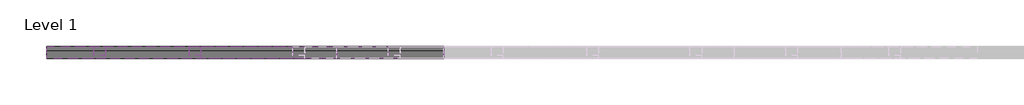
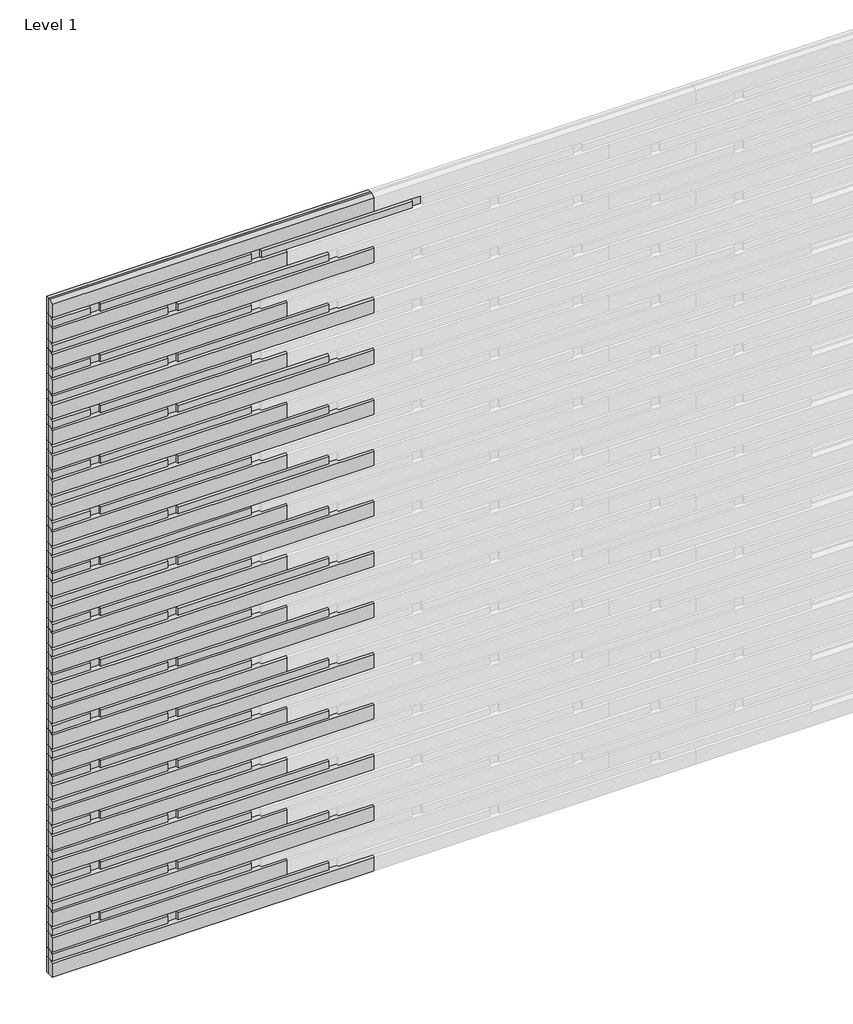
# One storey, part 1 of 4: 108 proxies.
"""IFC4 building model written with IfcOpenShell, lengths in millimetres."""

from ifc_helpers import new_model, si_unit, origin, place, context, project, spatial, transform, mapped, element, save
from components import specialty_equipment_50deff0f, specialty_equipment_1c03680a, specialty_equipment_1ede2179, specialty_equipment_b6bac791, specialty_equipment_79064f35, specialty_equipment_8ec0052d

model = new_model("IFC4")

# Units and contexts
model_context = context("Model", 3, world=origin())
ifc_project = project(units=[si_unit("LENGTHUNIT", "METRE", prefix="MILLI")], contexts=[model_context])

# Site, building, storey
site = spatial("IfcSite", under=ifc_project)
building = spatial("IfcBuilding", under=site)
storey = spatial("IfcBuildingStorey", under=building, Name="Level 1", Elevation=0.0)

# Proxies
placement = place(None, origin())
specialty_equipment_shape = specialty_equipment_50deff0f(model_context)
element("IfcBuildingElementProxy", 1, Name="Spinneybeck_ARO Plank 7 : A - 5’-6”  x 3 1/2” x 1 1/4”", ObjectType="Spinneybeck_ARO Plank 7 : A - 5’-6”  x 3 1/2” x 1 1/4”", at=placement, inside=storey, context=model_context, shape_type="MappedRepresentation", body=[
    mapped(specialty_equipment_shape, transform((-5209.7177571, 2593.3070483, 3755.55), x_axis=(1.0, 0.0, 0.0), y_axis=(0.0, 0.0, 1.0), z_axis=(0.0, -1.0, 0.0))),
])
element("IfcBuildingElementProxy", 2, Name="Spinneybeck_ARO Plank 7 : A - 5’-6”  x 3 1/2” x 1 1/4”", ObjectType="Spinneybeck_ARO Plank 7 : A - 5’-6”  x 3 1/2” x 1 1/4”", at=placement, inside=storey, context=model_context, shape_type="MappedRepresentation", body=[
    mapped(specialty_equipment_shape, transform((-5209.7177571, 2593.3070483, 3476.15), x_axis=(1.0, 0.0, 0.0), y_axis=(0.0, 0.0, 1.0), z_axis=(0.0, -1.0, 0.0))),
])
element("IfcBuildingElementProxy", 3, Name="Spinneybeck_ARO Plank 7 : A - 5’-6”  x 3 1/2” x 1 1/4”", ObjectType="Spinneybeck_ARO Plank 7 : A - 5’-6”  x 3 1/2” x 1 1/4”", at=placement, inside=storey, context=model_context, shape_type="MappedRepresentation", body=[
    mapped(specialty_equipment_shape, transform((-5209.7177571, 2593.3070483, 3196.75), x_axis=(1.0, 0.0, 0.0), y_axis=(0.0, 0.0, 1.0), z_axis=(0.0, -1.0, 0.0))),
])
element("IfcBuildingElementProxy", 4, Name="Spinneybeck_ARO Plank 7 : A - 5’-6”  x 3 1/2” x 1 1/4”", ObjectType="Spinneybeck_ARO Plank 7 : A - 5’-6”  x 3 1/2” x 1 1/4”", at=placement, inside=storey, context=model_context, shape_type="MappedRepresentation", body=[
    mapped(specialty_equipment_shape, transform((-5209.7177571, 2593.3070483, 2917.35), x_axis=(1.0, 0.0, 0.0), y_axis=(0.0, 0.0, 1.0), z_axis=(0.0, -1.0, 0.0))),
])
element("IfcBuildingElementProxy", 5, Name="Spinneybeck_ARO Plank 7 : A - 5’-6”  x 3 1/2” x 1 1/4”", ObjectType="Spinneybeck_ARO Plank 7 : A - 5’-6”  x 3 1/2” x 1 1/4”", at=placement, inside=storey, context=model_context, shape_type="MappedRepresentation", body=[
    mapped(specialty_equipment_shape, transform((-5209.7177571, 2593.3070483, 2637.95), x_axis=(1.0, 0.0, 0.0), y_axis=(0.0, 0.0, 1.0), z_axis=(0.0, -1.0, 0.0))),
])
element("IfcBuildingElementProxy", 6, Name="Spinneybeck_ARO Plank 7 : A - 5’-6”  x 3 1/2” x 1 1/4”", ObjectType="Spinneybeck_ARO Plank 7 : A - 5’-6”  x 3 1/2” x 1 1/4”", at=placement, inside=storey, context=model_context, shape_type="MappedRepresentation", body=[
    mapped(specialty_equipment_shape, transform((-5209.7177571, 2593.3070483, 2358.55), x_axis=(1.0, 0.0, 0.0), y_axis=(0.0, 0.0, 1.0), z_axis=(0.0, -1.0, 0.0))),
])
element("IfcBuildingElementProxy", 7, Name="Spinneybeck_ARO Plank 7 : A - 5’-6”  x 3 1/2” x 1 1/4”", ObjectType="Spinneybeck_ARO Plank 7 : A - 5’-6”  x 3 1/2” x 1 1/4”", at=placement, inside=storey, context=model_context, shape_type="MappedRepresentation", body=[
    mapped(specialty_equipment_shape, transform((-5209.7177571, 2593.3070483, 2079.15), x_axis=(1.0, 0.0, 0.0), y_axis=(0.0, 0.0, 1.0), z_axis=(0.0, -1.0, 0.0))),
])
element("IfcBuildingElementProxy", 8, Name="Spinneybeck_ARO Plank 7 : A - 5’-6”  x 3 1/2” x 1 1/4”", ObjectType="Spinneybeck_ARO Plank 7 : A - 5’-6”  x 3 1/2” x 1 1/4”", at=placement, inside=storey, context=model_context, shape_type="MappedRepresentation", body=[
    mapped(specialty_equipment_shape, transform((-5209.7177571, 2593.3070483, 1799.75), x_axis=(1.0, 0.0, 0.0), y_axis=(0.0, 0.0, 1.0), z_axis=(0.0, -1.0, 0.0))),
])
element("IfcBuildingElementProxy", 9, Name="Spinneybeck_ARO Plank 7 : A - 5’-6”  x 3 1/2” x 1 1/4”", ObjectType="Spinneybeck_ARO Plank 7 : A - 5’-6”  x 3 1/2” x 1 1/4”", at=placement, inside=storey, context=model_context, shape_type="MappedRepresentation", body=[
    mapped(specialty_equipment_shape, transform((-5209.7177571, 2593.3070483, 1520.35), x_axis=(1.0, 0.0, 0.0), y_axis=(0.0, 0.0, 1.0), z_axis=(0.0, -1.0, 0.0))),
])
element("IfcBuildingElementProxy", 10, Name="Spinneybeck_ARO Plank 7 : A - 5’-6”  x 3 1/2” x 1 1/4”", ObjectType="Spinneybeck_ARO Plank 7 : A - 5’-6”  x 3 1/2” x 1 1/4”", at=placement, inside=storey, context=model_context, shape_type="MappedRepresentation", body=[
    mapped(specialty_equipment_shape, transform((-5209.7177571, 2593.3070483, 1240.95), x_axis=(1.0, 0.0, 0.0), y_axis=(0.0, 0.0, 1.0), z_axis=(0.0, -1.0, 0.0))),
])
element("IfcBuildingElementProxy", 11, Name="Spinneybeck_ARO Plank 7 : A - 5’-6”  x 3 1/2” x 1 1/4”", ObjectType="Spinneybeck_ARO Plank 7 : A - 5’-6”  x 3 1/2” x 1 1/4”", at=placement, inside=storey, context=model_context, shape_type="MappedRepresentation", body=[
    mapped(specialty_equipment_shape, transform((-5209.7177571, 2593.3070483, 961.55), x_axis=(1.0, 0.0, 0.0), y_axis=(0.0, 0.0, 1.0), z_axis=(0.0, -1.0, 0.0))),
])
element("IfcBuildingElementProxy", 12, Name="Spinneybeck_ARO Plank 7 : A - 5’-6”  x 3 1/2” x 1 1/4”", ObjectType="Spinneybeck_ARO Plank 7 : A - 5’-6”  x 3 1/2” x 1 1/4”", at=placement, inside=storey, context=model_context, shape_type="MappedRepresentation", body=[
    mapped(specialty_equipment_shape, transform((-5209.7177571, 2593.3070483, 682.15), x_axis=(1.0, 0.0, 0.0), y_axis=(0.0, 0.0, 1.0), z_axis=(0.0, -1.0, 0.0))),
])
element("IfcBuildingElementProxy", 13, Name="Spinneybeck_ARO Plank 7 : A - 5’-6”  x 3 1/2” x 1 1/4”", ObjectType="Spinneybeck_ARO Plank 7 : A - 5’-6”  x 3 1/2” x 1 1/4”", at=placement, inside=storey, context=model_context, shape_type="MappedRepresentation", body=[
    mapped(specialty_equipment_shape, transform((-5209.7177571, 2593.3070483, 402.75), x_axis=(1.0, 0.0, 0.0), y_axis=(0.0, 0.0, 1.0), z_axis=(0.0, -1.0, 0.0))),
])
element("IfcBuildingElementProxy", 14, Name="Spinneybeck_ARO Plank 7 : A - 5’-6”  x 3 1/2” x 1 1/4”", ObjectType="Spinneybeck_ARO Plank 7 : A - 5’-6”  x 3 1/2” x 1 1/4”", at=placement, inside=storey, context=model_context, shape_type="MappedRepresentation", body=[
    mapped(specialty_equipment_shape, transform((-5209.7177571, 2593.3070483, 123.35), x_axis=(1.0, 0.0, 0.0), y_axis=(0.0, 0.0, 1.0), z_axis=(0.0, -1.0, 0.0))),
])
specialty_equipment_2_shape = specialty_equipment_1c03680a(model_context)
element("IfcBuildingElementProxy", 15, Name="Spinneybeck_ARO Plank 7 : B - 2’-7” x 2” x 1 1/4”", ObjectType="Spinneybeck_ARO Plank 7 : B - 2’-7” x 2” x 1 1/4”", at=placement, inside=storey, context=model_context, shape_type="MappedRepresentation", body=[
    mapped(specialty_equipment_2_shape, transform((-5404.0591593, 2593.3070483, 3685.7), x_axis=(1.0, 0.0, 0.0), y_axis=(0.0, 0.0, 1.0), z_axis=(0.0, -1.0, 0.0))),
])
element("IfcBuildingElementProxy", 16, Name="Spinneybeck_ARO Plank 7 : B - 2’-7” x 2” x 1 1/4”", ObjectType="Spinneybeck_ARO Plank 7 : B - 2’-7” x 2” x 1 1/4”", at=placement, inside=storey, context=model_context, shape_type="MappedRepresentation", body=[
    mapped(specialty_equipment_2_shape, transform((-4565.8591593, 2593.3070483, 3685.7), x_axis=(1.0, 0.0, 0.0), y_axis=(0.0, 0.0, 1.0), z_axis=(0.0, -1.0, 0.0))),
])
element("IfcBuildingElementProxy", 17, Name="Spinneybeck_ARO Plank 7 : B - 2’-7” x 2” x 1 1/4”", ObjectType="Spinneybeck_ARO Plank 7 : B - 2’-7” x 2” x 1 1/4”", at=placement, inside=storey, context=model_context, shape_type="MappedRepresentation", body=[
    mapped(specialty_equipment_2_shape, transform((-5001.0252102, 2593.3070483, 3546.0), x_axis=(1.0, 0.0, 0.0), y_axis=(0.0, 0.0, 1.0), z_axis=(0.0, -1.0, 0.0))),
])
element("IfcBuildingElementProxy", 18, Name="Spinneybeck_ARO Plank 7 : B - 2’-7” x 2” x 1 1/4”", ObjectType="Spinneybeck_ARO Plank 7 : B - 2’-7” x 2” x 1 1/4”", at=placement, inside=storey, context=model_context, shape_type="MappedRepresentation", body=[
    mapped(specialty_equipment_2_shape, transform((-5404.0591593, 2593.3070483, 3406.3), x_axis=(1.0, 0.0, 0.0), y_axis=(0.0, 0.0, 1.0), z_axis=(0.0, -1.0, 0.0))),
])
element("IfcBuildingElementProxy", 19, Name="Spinneybeck_ARO Plank 7 : B - 2’-7” x 2” x 1 1/4”", ObjectType="Spinneybeck_ARO Plank 7 : B - 2’-7” x 2” x 1 1/4”", at=placement, inside=storey, context=model_context, shape_type="MappedRepresentation", body=[
    mapped(specialty_equipment_2_shape, transform((-5001.0252102, 2593.3070483, 3266.6), x_axis=(1.0, 0.0, 0.0), y_axis=(0.0, 0.0, 1.0), z_axis=(0.0, -1.0, 0.0))),
])
element("IfcBuildingElementProxy", 20, Name="Spinneybeck_ARO Plank 7 : B - 2’-7” x 2” x 1 1/4”", ObjectType="Spinneybeck_ARO Plank 7 : B - 2’-7” x 2” x 1 1/4”", at=placement, inside=storey, context=model_context, shape_type="MappedRepresentation", body=[
    mapped(specialty_equipment_2_shape, transform((-5404.0591593, 2593.3070483, 3126.9), x_axis=(1.0, 0.0, 0.0), y_axis=(0.0, 0.0, 1.0), z_axis=(0.0, -1.0, 0.0))),
])
element("IfcBuildingElementProxy", 21, Name="Spinneybeck_ARO Plank 7 : B - 2’-7” x 2” x 1 1/4”", ObjectType="Spinneybeck_ARO Plank 7 : B - 2’-7” x 2” x 1 1/4”", at=placement, inside=storey, context=model_context, shape_type="MappedRepresentation", body=[
    mapped(specialty_equipment_2_shape, transform((-5001.0252102, 2593.3070483, 2987.2), x_axis=(1.0, 0.0, 0.0), y_axis=(0.0, 0.0, 1.0), z_axis=(0.0, -1.0, 0.0))),
])
element("IfcBuildingElementProxy", 22, Name="Spinneybeck_ARO Plank 7 : B - 2’-7” x 2” x 1 1/4”", ObjectType="Spinneybeck_ARO Plank 7 : B - 2’-7” x 2” x 1 1/4”", at=placement, inside=storey, context=model_context, shape_type="MappedRepresentation", body=[
    mapped(specialty_equipment_2_shape, transform((-5404.0591593, 2593.3070483, 2847.5), x_axis=(1.0, 0.0, 0.0), y_axis=(0.0, 0.0, 1.0), z_axis=(0.0, -1.0, 0.0))),
])
element("IfcBuildingElementProxy", 23, Name="Spinneybeck_ARO Plank 7 : B - 2’-7” x 2” x 1 1/4”", ObjectType="Spinneybeck_ARO Plank 7 : B - 2’-7” x 2” x 1 1/4”", at=placement, inside=storey, context=model_context, shape_type="MappedRepresentation", body=[
    mapped(specialty_equipment_2_shape, transform((-5001.0252102, 2593.3070483, 2707.8), x_axis=(1.0, 0.0, 0.0), y_axis=(0.0, 0.0, 1.0), z_axis=(0.0, -1.0, 0.0))),
])
element("IfcBuildingElementProxy", 24, Name="Spinneybeck_ARO Plank 7 : B - 2’-7” x 2” x 1 1/4”", ObjectType="Spinneybeck_ARO Plank 7 : B - 2’-7” x 2” x 1 1/4”", at=placement, inside=storey, context=model_context, shape_type="MappedRepresentation", body=[
    mapped(specialty_equipment_2_shape, transform((-5404.0591593, 2593.3070483, 2568.1), x_axis=(1.0, 0.0, 0.0), y_axis=(0.0, 0.0, 1.0), z_axis=(0.0, -1.0, 0.0))),
])
element("IfcBuildingElementProxy", 25, Name="Spinneybeck_ARO Plank 7 : B - 2’-7” x 2” x 1 1/4”", ObjectType="Spinneybeck_ARO Plank 7 : B - 2’-7” x 2” x 1 1/4”", at=placement, inside=storey, context=model_context, shape_type="MappedRepresentation", body=[
    mapped(specialty_equipment_2_shape, transform((-5001.0252102, 2593.3070483, 2428.4), x_axis=(1.0, 0.0, 0.0), y_axis=(0.0, 0.0, 1.0), z_axis=(0.0, -1.0, 0.0))),
])
element("IfcBuildingElementProxy", 26, Name="Spinneybeck_ARO Plank 7 : B - 2’-7” x 2” x 1 1/4”", ObjectType="Spinneybeck_ARO Plank 7 : B - 2’-7” x 2” x 1 1/4”", at=placement, inside=storey, context=model_context, shape_type="MappedRepresentation", body=[
    mapped(specialty_equipment_2_shape, transform((-5404.0591593, 2593.3070483, 2288.7), x_axis=(1.0, 0.0, 0.0), y_axis=(0.0, 0.0, 1.0), z_axis=(0.0, -1.0, 0.0))),
])
element("IfcBuildingElementProxy", 27, Name="Spinneybeck_ARO Plank 7 : B - 2’-7” x 2” x 1 1/4”", ObjectType="Spinneybeck_ARO Plank 7 : B - 2’-7” x 2” x 1 1/4”", at=placement, inside=storey, context=model_context, shape_type="MappedRepresentation", body=[
    mapped(specialty_equipment_2_shape, transform((-5001.0252102, 2593.3070483, 2149.0), x_axis=(1.0, 0.0, 0.0), y_axis=(0.0, 0.0, 1.0), z_axis=(0.0, -1.0, 0.0))),
])
element("IfcBuildingElementProxy", 28, Name="Spinneybeck_ARO Plank 7 : B - 2’-7” x 2” x 1 1/4”", ObjectType="Spinneybeck_ARO Plank 7 : B - 2’-7” x 2” x 1 1/4”", at=placement, inside=storey, context=model_context, shape_type="MappedRepresentation", body=[
    mapped(specialty_equipment_2_shape, transform((-5404.0591593, 2593.3070483, 2009.3), x_axis=(1.0, 0.0, 0.0), y_axis=(0.0, 0.0, 1.0), z_axis=(0.0, -1.0, 0.0))),
])
element("IfcBuildingElementProxy", 29, Name="Spinneybeck_ARO Plank 7 : B - 2’-7” x 2” x 1 1/4”", ObjectType="Spinneybeck_ARO Plank 7 : B - 2’-7” x 2” x 1 1/4”", at=placement, inside=storey, context=model_context, shape_type="MappedRepresentation", body=[
    mapped(specialty_equipment_2_shape, transform((-5001.0252102, 2593.3070483, 1869.6), x_axis=(1.0, 0.0, 0.0), y_axis=(0.0, 0.0, 1.0), z_axis=(0.0, -1.0, 0.0))),
])
element("IfcBuildingElementProxy", 30, Name="Spinneybeck_ARO Plank 7 : B - 2’-7” x 2” x 1 1/4”", ObjectType="Spinneybeck_ARO Plank 7 : B - 2’-7” x 2” x 1 1/4”", at=placement, inside=storey, context=model_context, shape_type="MappedRepresentation", body=[
    mapped(specialty_equipment_2_shape, transform((-5404.0591593, 2593.3070483, 1729.9), x_axis=(1.0, 0.0, 0.0), y_axis=(0.0, 0.0, 1.0), z_axis=(0.0, -1.0, 0.0))),
])
element("IfcBuildingElementProxy", 31, Name="Spinneybeck_ARO Plank 7 : B - 2’-7” x 2” x 1 1/4”", ObjectType="Spinneybeck_ARO Plank 7 : B - 2’-7” x 2” x 1 1/4”", at=placement, inside=storey, context=model_context, shape_type="MappedRepresentation", body=[
    mapped(specialty_equipment_2_shape, transform((-5001.0252102, 2593.3070483, 1590.2), x_axis=(1.0, 0.0, 0.0), y_axis=(0.0, 0.0, 1.0), z_axis=(0.0, -1.0, 0.0))),
])
element("IfcBuildingElementProxy", 32, Name="Spinneybeck_ARO Plank 7 : B - 2’-7” x 2” x 1 1/4”", ObjectType="Spinneybeck_ARO Plank 7 : B - 2’-7” x 2” x 1 1/4”", at=placement, inside=storey, context=model_context, shape_type="MappedRepresentation", body=[
    mapped(specialty_equipment_2_shape, transform((-5404.0591593, 2593.3070483, 1450.5), x_axis=(1.0, 0.0, 0.0), y_axis=(0.0, 0.0, 1.0), z_axis=(0.0, -1.0, 0.0))),
])
element("IfcBuildingElementProxy", 33, Name="Spinneybeck_ARO Plank 7 : B - 2’-7” x 2” x 1 1/4”", ObjectType="Spinneybeck_ARO Plank 7 : B - 2’-7” x 2” x 1 1/4”", at=placement, inside=storey, context=model_context, shape_type="MappedRepresentation", body=[
    mapped(specialty_equipment_2_shape, transform((-5001.0252102, 2593.3070483, 1310.8), x_axis=(1.0, 0.0, 0.0), y_axis=(0.0, 0.0, 1.0), z_axis=(0.0, -1.0, 0.0))),
])
element("IfcBuildingElementProxy", 34, Name="Spinneybeck_ARO Plank 7 : B - 2’-7” x 2” x 1 1/4”", ObjectType="Spinneybeck_ARO Plank 7 : B - 2’-7” x 2” x 1 1/4”", at=placement, inside=storey, context=model_context, shape_type="MappedRepresentation", body=[
    mapped(specialty_equipment_2_shape, transform((-5404.0591593, 2593.3070483, 1171.1), x_axis=(1.0, 0.0, 0.0), y_axis=(0.0, 0.0, 1.0), z_axis=(0.0, -1.0, 0.0))),
])
element("IfcBuildingElementProxy", 35, Name="Spinneybeck_ARO Plank 7 : B - 2’-7” x 2” x 1 1/4”", ObjectType="Spinneybeck_ARO Plank 7 : B - 2’-7” x 2” x 1 1/4”", at=placement, inside=storey, context=model_context, shape_type="MappedRepresentation", body=[
    mapped(specialty_equipment_2_shape, transform((-5001.0252102, 2593.3070483, 1031.4), x_axis=(1.0, 0.0, 0.0), y_axis=(0.0, 0.0, 1.0), z_axis=(0.0, -1.0, 0.0))),
])
element("IfcBuildingElementProxy", 36, Name="Spinneybeck_ARO Plank 7 : B - 2’-7” x 2” x 1 1/4”", ObjectType="Spinneybeck_ARO Plank 7 : B - 2’-7” x 2” x 1 1/4”", at=placement, inside=storey, context=model_context, shape_type="MappedRepresentation", body=[
    mapped(specialty_equipment_2_shape, transform((-5404.0591593, 2593.3070483, 891.7), x_axis=(1.0, 0.0, 0.0), y_axis=(0.0, 0.0, 1.0), z_axis=(0.0, -1.0, 0.0))),
])
element("IfcBuildingElementProxy", 37, Name="Spinneybeck_ARO Plank 7 : B - 2’-7” x 2” x 1 1/4”", ObjectType="Spinneybeck_ARO Plank 7 : B - 2’-7” x 2” x 1 1/4”", at=placement, inside=storey, context=model_context, shape_type="MappedRepresentation", body=[
    mapped(specialty_equipment_2_shape, transform((-5001.0252102, 2593.3070483, 752.0), x_axis=(1.0, 0.0, 0.0), y_axis=(0.0, 0.0, 1.0), z_axis=(0.0, -1.0, 0.0))),
])
element("IfcBuildingElementProxy", 38, Name="Spinneybeck_ARO Plank 7 : B - 2’-7” x 2” x 1 1/4”", ObjectType="Spinneybeck_ARO Plank 7 : B - 2’-7” x 2” x 1 1/4”", at=placement, inside=storey, context=model_context, shape_type="MappedRepresentation", body=[
    mapped(specialty_equipment_2_shape, transform((-5404.0591593, 2593.3070483, 612.3), x_axis=(1.0, 0.0, 0.0), y_axis=(0.0, 0.0, 1.0), z_axis=(0.0, -1.0, 0.0))),
])
element("IfcBuildingElementProxy", 39, Name="Spinneybeck_ARO Plank 7 : B - 2’-7” x 2” x 1 1/4”", ObjectType="Spinneybeck_ARO Plank 7 : B - 2’-7” x 2” x 1 1/4”", at=placement, inside=storey, context=model_context, shape_type="MappedRepresentation", body=[
    mapped(specialty_equipment_2_shape, transform((-5001.0252102, 2593.3070483, 472.6), x_axis=(1.0, 0.0, 0.0), y_axis=(0.0, 0.0, 1.0), z_axis=(0.0, -1.0, 0.0))),
])
element("IfcBuildingElementProxy", 40, Name="Spinneybeck_ARO Plank 7 : B - 2’-7” x 2” x 1 1/4”", ObjectType="Spinneybeck_ARO Plank 7 : B - 2’-7” x 2” x 1 1/4”", at=placement, inside=storey, context=model_context, shape_type="MappedRepresentation", body=[
    mapped(specialty_equipment_2_shape, transform((-5404.0591593, 2593.3070483, 332.9), x_axis=(1.0, 0.0, 0.0), y_axis=(0.0, 0.0, 1.0), z_axis=(0.0, -1.0, 0.0))),
])
element("IfcBuildingElementProxy", 41, Name="Spinneybeck_ARO Plank 7 : B - 2’-7” x 2” x 1 1/4”", ObjectType="Spinneybeck_ARO Plank 7 : B - 2’-7” x 2” x 1 1/4”", at=placement, inside=storey, context=model_context, shape_type="MappedRepresentation", body=[
    mapped(specialty_equipment_2_shape, transform((-5001.0252102, 2593.3070483, 193.2), x_axis=(1.0, 0.0, 0.0), y_axis=(0.0, 0.0, 1.0), z_axis=(0.0, -1.0, 0.0))),
])
specialty_equipment_3_shape = specialty_equipment_1ede2179(model_context)
element("IfcBuildingElementProxy", 42, Name="Spinneybeck_ARO Plank 7 : C - 2” x 2” x 3/4”", ObjectType="Spinneybeck_ARO Plank 7 : C - 2” x 2” x 3/4”", at=placement, inside=storey, context=model_context, shape_type="MappedRepresentation", body=[
    mapped(specialty_equipment_3_shape, transform((-5823.1591593, 2593.3070483, 3685.7), x_axis=(1.0, 0.0, 0.0), y_axis=(0.0, 0.0, 1.0), z_axis=(0.0, -1.0, 0.0))),
])
element("IfcBuildingElementProxy", 43, Name="Spinneybeck_ARO Plank 7 : C - 2” x 2” x 3/4”", ObjectType="Spinneybeck_ARO Plank 7 : C - 2” x 2” x 3/4”", at=placement, inside=storey, context=model_context, shape_type="MappedRepresentation", body=[
    mapped(specialty_equipment_3_shape, transform((-4984.9591593, 2593.3070483, 3685.7), x_axis=(1.0, 0.0, 0.0), y_axis=(0.0, 0.0, 1.0), z_axis=(0.0, -1.0, 0.0))),
])
element("IfcBuildingElementProxy", 44, Name="Spinneybeck_ARO Plank 7 : C - 2” x 2” x 3/4”", ObjectType="Spinneybeck_ARO Plank 7 : C - 2” x 2” x 3/4”", at=placement, inside=storey, context=model_context, shape_type="MappedRepresentation", body=[
    mapped(specialty_equipment_3_shape, transform((-4146.7591593, 2593.3070483, 3685.7), x_axis=(1.0, 0.0, 0.0), y_axis=(0.0, 0.0, 1.0), z_axis=(0.0, -1.0, 0.0))),
])
element("IfcBuildingElementProxy", 45, Name="Spinneybeck_ARO Plank 7 : C - 2” x 2” x 3/4”", ObjectType="Spinneybeck_ARO Plank 7 : C - 2” x 2” x 3/4”", at=placement, inside=storey, context=model_context, shape_type="MappedRepresentation", body=[
    mapped(specialty_equipment_3_shape, transform((-5420.1252102, 2593.3070483, 3546.0), x_axis=(1.0, 0.0, 0.0), y_axis=(0.0, 0.0, 1.0), z_axis=(0.0, -1.0, 0.0))),
])
element("IfcBuildingElementProxy", 46, Name="Spinneybeck_ARO Plank 7 : C - 2” x 2” x 3/4”", ObjectType="Spinneybeck_ARO Plank 7 : C - 2” x 2” x 3/4”", at=placement, inside=storey, context=model_context, shape_type="MappedRepresentation", body=[
    mapped(specialty_equipment_3_shape, transform((-5823.1591593, 2593.3070483, 3406.3), x_axis=(1.0, 0.0, 0.0), y_axis=(0.0, 0.0, 1.0), z_axis=(0.0, -1.0, 0.0))),
])
element("IfcBuildingElementProxy", 47, Name="Spinneybeck_ARO Plank 7 : C - 2” x 2” x 3/4”", ObjectType="Spinneybeck_ARO Plank 7 : C - 2” x 2” x 3/4”", at=placement, inside=storey, context=model_context, shape_type="MappedRepresentation", body=[
    mapped(specialty_equipment_3_shape, transform((-5420.1252102, 2593.3070483, 3266.6), x_axis=(1.0, 0.0, 0.0), y_axis=(0.0, 0.0, 1.0), z_axis=(0.0, -1.0, 0.0))),
])
element("IfcBuildingElementProxy", 48, Name="Spinneybeck_ARO Plank 7 : C - 2” x 2” x 3/4”", ObjectType="Spinneybeck_ARO Plank 7 : C - 2” x 2” x 3/4”", at=placement, inside=storey, context=model_context, shape_type="MappedRepresentation", body=[
    mapped(specialty_equipment_3_shape, transform((-5823.1591593, 2593.3070483, 3126.9), x_axis=(1.0, 0.0, 0.0), y_axis=(0.0, 0.0, 1.0), z_axis=(0.0, -1.0, 0.0))),
])
element("IfcBuildingElementProxy", 49, Name="Spinneybeck_ARO Plank 7 : C - 2” x 2” x 3/4”", ObjectType="Spinneybeck_ARO Plank 7 : C - 2” x 2” x 3/4”", at=placement, inside=storey, context=model_context, shape_type="MappedRepresentation", body=[
    mapped(specialty_equipment_3_shape, transform((-5420.1252102, 2593.3070483, 2987.2), x_axis=(1.0, 0.0, 0.0), y_axis=(0.0, 0.0, 1.0), z_axis=(0.0, -1.0, 0.0))),
])
element("IfcBuildingElementProxy", 50, Name="Spinneybeck_ARO Plank 7 : C - 2” x 2” x 3/4”", ObjectType="Spinneybeck_ARO Plank 7 : C - 2” x 2” x 3/4”", at=placement, inside=storey, context=model_context, shape_type="MappedRepresentation", body=[
    mapped(specialty_equipment_3_shape, transform((-5823.1591593, 2593.3070483, 2847.5), x_axis=(1.0, 0.0, 0.0), y_axis=(0.0, 0.0, 1.0), z_axis=(0.0, -1.0, 0.0))),
])
element("IfcBuildingElementProxy", 51, Name="Spinneybeck_ARO Plank 7 : C - 2” x 2” x 3/4”", ObjectType="Spinneybeck_ARO Plank 7 : C - 2” x 2” x 3/4”", at=placement, inside=storey, context=model_context, shape_type="MappedRepresentation", body=[
    mapped(specialty_equipment_3_shape, transform((-5420.1252102, 2593.3070483, 2707.8), x_axis=(1.0, 0.0, 0.0), y_axis=(0.0, 0.0, 1.0), z_axis=(0.0, -1.0, 0.0))),
])
element("IfcBuildingElementProxy", 52, Name="Spinneybeck_ARO Plank 7 : C - 2” x 2” x 3/4”", ObjectType="Spinneybeck_ARO Plank 7 : C - 2” x 2” x 3/4”", at=placement, inside=storey, context=model_context, shape_type="MappedRepresentation", body=[
    mapped(specialty_equipment_3_shape, transform((-5823.1591593, 2593.3070483, 2568.1), x_axis=(1.0, 0.0, 0.0), y_axis=(0.0, 0.0, 1.0), z_axis=(0.0, -1.0, 0.0))),
])
element("IfcBuildingElementProxy", 53, Name="Spinneybeck_ARO Plank 7 : C - 2” x 2” x 3/4”", ObjectType="Spinneybeck_ARO Plank 7 : C - 2” x 2” x 3/4”", at=placement, inside=storey, context=model_context, shape_type="MappedRepresentation", body=[
    mapped(specialty_equipment_3_shape, transform((-5420.1252102, 2593.3070483, 2428.4), x_axis=(1.0, 0.0, 0.0), y_axis=(0.0, 0.0, 1.0), z_axis=(0.0, -1.0, 0.0))),
])
element("IfcBuildingElementProxy", 54, Name="Spinneybeck_ARO Plank 7 : C - 2” x 2” x 3/4”", ObjectType="Spinneybeck_ARO Plank 7 : C - 2” x 2” x 3/4”", at=placement, inside=storey, context=model_context, shape_type="MappedRepresentation", body=[
    mapped(specialty_equipment_3_shape, transform((-5823.1591593, 2593.3070483, 2288.7), x_axis=(1.0, 0.0, 0.0), y_axis=(0.0, 0.0, 1.0), z_axis=(0.0, -1.0, 0.0))),
])
element("IfcBuildingElementProxy", 55, Name="Spinneybeck_ARO Plank 7 : C - 2” x 2” x 3/4”", ObjectType="Spinneybeck_ARO Plank 7 : C - 2” x 2” x 3/4”", at=placement, inside=storey, context=model_context, shape_type="MappedRepresentation", body=[
    mapped(specialty_equipment_3_shape, transform((-5420.1252102, 2593.3070483, 2149.0), x_axis=(1.0, 0.0, 0.0), y_axis=(0.0, 0.0, 1.0), z_axis=(0.0, -1.0, 0.0))),
])
element("IfcBuildingElementProxy", 56, Name="Spinneybeck_ARO Plank 7 : C - 2” x 2” x 3/4”", ObjectType="Spinneybeck_ARO Plank 7 : C - 2” x 2” x 3/4”", at=placement, inside=storey, context=model_context, shape_type="MappedRepresentation", body=[
    mapped(specialty_equipment_3_shape, transform((-5823.1591593, 2593.3070483, 2009.3), x_axis=(1.0, 0.0, 0.0), y_axis=(0.0, 0.0, 1.0), z_axis=(0.0, -1.0, 0.0))),
])
element("IfcBuildingElementProxy", 57, Name="Spinneybeck_ARO Plank 7 : C - 2” x 2” x 3/4”", ObjectType="Spinneybeck_ARO Plank 7 : C - 2” x 2” x 3/4”", at=placement, inside=storey, context=model_context, shape_type="MappedRepresentation", body=[
    mapped(specialty_equipment_3_shape, transform((-5420.1252102, 2593.3070483, 1869.6), x_axis=(1.0, 0.0, 0.0), y_axis=(0.0, 0.0, 1.0), z_axis=(0.0, -1.0, 0.0))),
])
element("IfcBuildingElementProxy", 58, Name="Spinneybeck_ARO Plank 7 : C - 2” x 2” x 3/4”", ObjectType="Spinneybeck_ARO Plank 7 : C - 2” x 2” x 3/4”", at=placement, inside=storey, context=model_context, shape_type="MappedRepresentation", body=[
    mapped(specialty_equipment_3_shape, transform((-5823.1591593, 2593.3070483, 1729.9), x_axis=(1.0, 0.0, 0.0), y_axis=(0.0, 0.0, 1.0), z_axis=(0.0, -1.0, 0.0))),
])
element("IfcBuildingElementProxy", 59, Name="Spinneybeck_ARO Plank 7 : C - 2” x 2” x 3/4”", ObjectType="Spinneybeck_ARO Plank 7 : C - 2” x 2” x 3/4”", at=placement, inside=storey, context=model_context, shape_type="MappedRepresentation", body=[
    mapped(specialty_equipment_3_shape, transform((-5420.1252102, 2593.3070483, 1590.2), x_axis=(1.0, 0.0, 0.0), y_axis=(0.0, 0.0, 1.0), z_axis=(0.0, -1.0, 0.0))),
])
element("IfcBuildingElementProxy", 60, Name="Spinneybeck_ARO Plank 7 : C - 2” x 2” x 3/4”", ObjectType="Spinneybeck_ARO Plank 7 : C - 2” x 2” x 3/4”", at=placement, inside=storey, context=model_context, shape_type="MappedRepresentation", body=[
    mapped(specialty_equipment_3_shape, transform((-5823.1591593, 2593.3070483, 1450.5), x_axis=(1.0, 0.0, 0.0), y_axis=(0.0, 0.0, 1.0), z_axis=(0.0, -1.0, 0.0))),
])
element("IfcBuildingElementProxy", 61, Name="Spinneybeck_ARO Plank 7 : C - 2” x 2” x 3/4”", ObjectType="Spinneybeck_ARO Plank 7 : C - 2” x 2” x 3/4”", at=placement, inside=storey, context=model_context, shape_type="MappedRepresentation", body=[
    mapped(specialty_equipment_3_shape, transform((-5420.1252102, 2593.3070483, 1310.8), x_axis=(1.0, 0.0, 0.0), y_axis=(0.0, 0.0, 1.0), z_axis=(0.0, -1.0, 0.0))),
])
element("IfcBuildingElementProxy", 62, Name="Spinneybeck_ARO Plank 7 : C - 2” x 2” x 3/4”", ObjectType="Spinneybeck_ARO Plank 7 : C - 2” x 2” x 3/4”", at=placement, inside=storey, context=model_context, shape_type="MappedRepresentation", body=[
    mapped(specialty_equipment_3_shape, transform((-5823.1591593, 2593.3070483, 1171.1), x_axis=(1.0, 0.0, 0.0), y_axis=(0.0, 0.0, 1.0), z_axis=(0.0, -1.0, 0.0))),
])
element("IfcBuildingElementProxy", 63, Name="Spinneybeck_ARO Plank 7 : C - 2” x 2” x 3/4”", ObjectType="Spinneybeck_ARO Plank 7 : C - 2” x 2” x 3/4”", at=placement, inside=storey, context=model_context, shape_type="MappedRepresentation", body=[
    mapped(specialty_equipment_3_shape, transform((-5420.1252102, 2593.3070483, 1031.4), x_axis=(1.0, 0.0, 0.0), y_axis=(0.0, 0.0, 1.0), z_axis=(0.0, -1.0, 0.0))),
])
element("IfcBuildingElementProxy", 64, Name="Spinneybeck_ARO Plank 7 : C - 2” x 2” x 3/4”", ObjectType="Spinneybeck_ARO Plank 7 : C - 2” x 2” x 3/4”", at=placement, inside=storey, context=model_context, shape_type="MappedRepresentation", body=[
    mapped(specialty_equipment_3_shape, transform((-5823.1591593, 2593.3070483, 891.7), x_axis=(1.0, 0.0, 0.0), y_axis=(0.0, 0.0, 1.0), z_axis=(0.0, -1.0, 0.0))),
])
element("IfcBuildingElementProxy", 65, Name="Spinneybeck_ARO Plank 7 : C - 2” x 2” x 3/4”", ObjectType="Spinneybeck_ARO Plank 7 : C - 2” x 2” x 3/4”", at=placement, inside=storey, context=model_context, shape_type="MappedRepresentation", body=[
    mapped(specialty_equipment_3_shape, transform((-5420.1252102, 2593.3070483, 752.0), x_axis=(1.0, 0.0, 0.0), y_axis=(0.0, 0.0, 1.0), z_axis=(0.0, -1.0, 0.0))),
])
element("IfcBuildingElementProxy", 66, Name="Spinneybeck_ARO Plank 7 : C - 2” x 2” x 3/4”", ObjectType="Spinneybeck_ARO Plank 7 : C - 2” x 2” x 3/4”", at=placement, inside=storey, context=model_context, shape_type="MappedRepresentation", body=[
    mapped(specialty_equipment_3_shape, transform((-5823.1591593, 2593.3070483, 612.3), x_axis=(1.0, 0.0, 0.0), y_axis=(0.0, 0.0, 1.0), z_axis=(0.0, -1.0, 0.0))),
])
element("IfcBuildingElementProxy", 67, Name="Spinneybeck_ARO Plank 7 : C - 2” x 2” x 3/4”", ObjectType="Spinneybeck_ARO Plank 7 : C - 2” x 2” x 3/4”", at=placement, inside=storey, context=model_context, shape_type="MappedRepresentation", body=[
    mapped(specialty_equipment_3_shape, transform((-5420.1252102, 2593.3070483, 472.6), x_axis=(1.0, 0.0, 0.0), y_axis=(0.0, 0.0, 1.0), z_axis=(0.0, -1.0, 0.0))),
])
element("IfcBuildingElementProxy", 68, Name="Spinneybeck_ARO Plank 7 : C - 2” x 2” x 3/4”", ObjectType="Spinneybeck_ARO Plank 7 : C - 2” x 2” x 3/4”", at=placement, inside=storey, context=model_context, shape_type="MappedRepresentation", body=[
    mapped(specialty_equipment_3_shape, transform((-5823.1591593, 2593.3070483, 332.9), x_axis=(1.0, 0.0, 0.0), y_axis=(0.0, 0.0, 1.0), z_axis=(0.0, -1.0, 0.0))),
])
element("IfcBuildingElementProxy", 69, Name="Spinneybeck_ARO Plank 7 : C - 2” x 2” x 3/4”", ObjectType="Spinneybeck_ARO Plank 7 : C - 2” x 2” x 3/4”", at=placement, inside=storey, context=model_context, shape_type="MappedRepresentation", body=[
    mapped(specialty_equipment_3_shape, transform((-5420.1252102, 2593.3070483, 193.2), x_axis=(1.0, 0.0, 0.0), y_axis=(0.0, 0.0, 1.0), z_axis=(0.0, -1.0, 0.0))),
])
specialty_equipment_4_shape = specialty_equipment_b6bac791(model_context)
element("IfcBuildingElementProxy", 70, Name="Spinneybeck_ARO Plank 7 : B - 2’-7” x 2” x 1 1/4”", ObjectType="Spinneybeck_ARO Plank 7 : B - 2’-7” x 2” x 1 1/4”", at=placement, inside=storey, context=model_context, shape_type="MappedRepresentation", body=[
    mapped(specialty_equipment_4_shape, transform((-5948.2384582, 2593.3070483, 3685.7), x_axis=(1.0, 0.0, 0.0), y_axis=(0.0, 0.0, 1.0), z_axis=(0.0, -1.0, 0.0))),
])
element("IfcBuildingElementProxy", 71, Name="Spinneybeck_ARO Plank 7 : B - 2’-7” x 2” x 1 1/4”", ObjectType="Spinneybeck_ARO Plank 7 : B - 2’-7” x 2” x 1 1/4”", at=placement, inside=storey, context=model_context, shape_type="MappedRepresentation", body=[
    mapped(specialty_equipment_4_shape, transform((-5948.2384582, 2593.3070483, 3406.3), x_axis=(1.0, 0.0, 0.0), y_axis=(0.0, 0.0, 1.0), z_axis=(0.0, -1.0, 0.0))),
])
element("IfcBuildingElementProxy", 72, Name="Spinneybeck_ARO Plank 7 : B - 2’-7” x 2” x 1 1/4”", ObjectType="Spinneybeck_ARO Plank 7 : B - 2’-7” x 2” x 1 1/4”", at=placement, inside=storey, context=model_context, shape_type="MappedRepresentation", body=[
    mapped(specialty_equipment_4_shape, transform((-5948.2384582, 2593.3070483, 3126.9), x_axis=(1.0, 0.0, 0.0), y_axis=(0.0, 0.0, 1.0), z_axis=(0.0, -1.0, 0.0))),
])
element("IfcBuildingElementProxy", 73, Name="Spinneybeck_ARO Plank 7 : B - 2’-7” x 2” x 1 1/4”", ObjectType="Spinneybeck_ARO Plank 7 : B - 2’-7” x 2” x 1 1/4”", at=placement, inside=storey, context=model_context, shape_type="MappedRepresentation", body=[
    mapped(specialty_equipment_4_shape, transform((-5948.2384582, 2593.3070483, 2847.5), x_axis=(1.0, 0.0, 0.0), y_axis=(0.0, 0.0, 1.0), z_axis=(0.0, -1.0, 0.0))),
])
element("IfcBuildingElementProxy", 74, Name="Spinneybeck_ARO Plank 7 : B - 2’-7” x 2” x 1 1/4”", ObjectType="Spinneybeck_ARO Plank 7 : B - 2’-7” x 2” x 1 1/4”", at=placement, inside=storey, context=model_context, shape_type="MappedRepresentation", body=[
    mapped(specialty_equipment_4_shape, transform((-5948.2384582, 2593.3070483, 2568.1), x_axis=(1.0, 0.0, 0.0), y_axis=(0.0, 0.0, 1.0), z_axis=(0.0, -1.0, 0.0))),
])
element("IfcBuildingElementProxy", 75, Name="Spinneybeck_ARO Plank 7 : B - 2’-7” x 2” x 1 1/4”", ObjectType="Spinneybeck_ARO Plank 7 : B - 2’-7” x 2” x 1 1/4”", at=placement, inside=storey, context=model_context, shape_type="MappedRepresentation", body=[
    mapped(specialty_equipment_4_shape, transform((-5948.2384582, 2593.3070483, 2288.7), x_axis=(1.0, 0.0, 0.0), y_axis=(0.0, 0.0, 1.0), z_axis=(0.0, -1.0, 0.0))),
])
element("IfcBuildingElementProxy", 76, Name="Spinneybeck_ARO Plank 7 : B - 2’-7” x 2” x 1 1/4”", ObjectType="Spinneybeck_ARO Plank 7 : B - 2’-7” x 2” x 1 1/4”", at=placement, inside=storey, context=model_context, shape_type="MappedRepresentation", body=[
    mapped(specialty_equipment_4_shape, transform((-5948.2384582, 2593.3070483, 2009.3), x_axis=(1.0, 0.0, 0.0), y_axis=(0.0, 0.0, 1.0), z_axis=(0.0, -1.0, 0.0))),
])
element("IfcBuildingElementProxy", 77, Name="Spinneybeck_ARO Plank 7 : B - 2’-7” x 2” x 1 1/4”", ObjectType="Spinneybeck_ARO Plank 7 : B - 2’-7” x 2” x 1 1/4”", at=placement, inside=storey, context=model_context, shape_type="MappedRepresentation", body=[
    mapped(specialty_equipment_4_shape, transform((-5948.2384582, 2593.3070483, 1729.9), x_axis=(1.0, 0.0, 0.0), y_axis=(0.0, 0.0, 1.0), z_axis=(0.0, -1.0, 0.0))),
])
element("IfcBuildingElementProxy", 78, Name="Spinneybeck_ARO Plank 7 : B - 2’-7” x 2” x 1 1/4”", ObjectType="Spinneybeck_ARO Plank 7 : B - 2’-7” x 2” x 1 1/4”", at=placement, inside=storey, context=model_context, shape_type="MappedRepresentation", body=[
    mapped(specialty_equipment_4_shape, transform((-5948.2384582, 2593.3070483, 1450.5), x_axis=(1.0, 0.0, 0.0), y_axis=(0.0, 0.0, 1.0), z_axis=(0.0, -1.0, 0.0))),
])
element("IfcBuildingElementProxy", 79, Name="Spinneybeck_ARO Plank 7 : B - 2’-7” x 2” x 1 1/4”", ObjectType="Spinneybeck_ARO Plank 7 : B - 2’-7” x 2” x 1 1/4”", at=placement, inside=storey, context=model_context, shape_type="MappedRepresentation", body=[
    mapped(specialty_equipment_4_shape, transform((-5948.2384582, 2593.3070483, 1171.1), x_axis=(1.0, 0.0, 0.0), y_axis=(0.0, 0.0, 1.0), z_axis=(0.0, -1.0, 0.0))),
])
element("IfcBuildingElementProxy", 80, Name="Spinneybeck_ARO Plank 7 : B - 2’-7” x 2” x 1 1/4”", ObjectType="Spinneybeck_ARO Plank 7 : B - 2’-7” x 2” x 1 1/4”", at=placement, inside=storey, context=model_context, shape_type="MappedRepresentation", body=[
    mapped(specialty_equipment_4_shape, transform((-5948.2384582, 2593.3070483, 891.7), x_axis=(1.0, 0.0, 0.0), y_axis=(0.0, 0.0, 1.0), z_axis=(0.0, -1.0, 0.0))),
])
element("IfcBuildingElementProxy", 81, Name="Spinneybeck_ARO Plank 7 : B - 2’-7” x 2” x 1 1/4”", ObjectType="Spinneybeck_ARO Plank 7 : B - 2’-7” x 2” x 1 1/4”", at=placement, inside=storey, context=model_context, shape_type="MappedRepresentation", body=[
    mapped(specialty_equipment_4_shape, transform((-5948.2384582, 2593.3070483, 612.3), x_axis=(1.0, 0.0, 0.0), y_axis=(0.0, 0.0, 1.0), z_axis=(0.0, -1.0, 0.0))),
])
element("IfcBuildingElementProxy", 82, Name="Spinneybeck_ARO Plank 7 : B - 2’-7” x 2” x 1 1/4”", ObjectType="Spinneybeck_ARO Plank 7 : B - 2’-7” x 2” x 1 1/4”", at=placement, inside=storey, context=model_context, shape_type="MappedRepresentation", body=[
    mapped(specialty_equipment_4_shape, transform((-5948.2384582, 2593.3070483, 332.9), x_axis=(1.0, 0.0, 0.0), y_axis=(0.0, 0.0, 1.0), z_axis=(0.0, -1.0, 0.0))),
])
specialty_equipment_5_shape = specialty_equipment_79064f35(model_context)
element("IfcBuildingElementProxy", 83, Name="Spinneybeck_ARO Plank 7 : A - 5’-6”  x 3 1/2” x 1 1/4”", ObjectType="Spinneybeck_ARO Plank 7 : A - 5’-6”  x 3 1/2” x 1 1/4”", at=placement, inside=storey, context=model_context, shape_type="MappedRepresentation", body=[
    mapped(specialty_equipment_5_shape, transform((-5435.9601544, 2593.3070483, 3615.85), x_axis=(1.0, 0.0, 0.0), y_axis=(0.0, 0.0, 1.0), z_axis=(0.0, -1.0, 0.0))),
])
element("IfcBuildingElementProxy", 84, Name="Spinneybeck_ARO Plank 7 : A - 5’-6”  x 3 1/2” x 1 1/4”", ObjectType="Spinneybeck_ARO Plank 7 : A - 5’-6”  x 3 1/2” x 1 1/4”", at=placement, inside=storey, context=model_context, shape_type="MappedRepresentation", body=[
    mapped(specialty_equipment_5_shape, transform((-5435.9601544, 2593.3070483, 3336.45), x_axis=(1.0, 0.0, 0.0), y_axis=(0.0, 0.0, 1.0), z_axis=(0.0, -1.0, 0.0))),
])
element("IfcBuildingElementProxy", 85, Name="Spinneybeck_ARO Plank 7 : A - 5’-6”  x 3 1/2” x 1 1/4”", ObjectType="Spinneybeck_ARO Plank 7 : A - 5’-6”  x 3 1/2” x 1 1/4”", at=placement, inside=storey, context=model_context, shape_type="MappedRepresentation", body=[
    mapped(specialty_equipment_5_shape, transform((-5435.9601544, 2593.3070483, 3057.05), x_axis=(1.0, 0.0, 0.0), y_axis=(0.0, 0.0, 1.0), z_axis=(0.0, -1.0, 0.0))),
])
element("IfcBuildingElementProxy", 86, Name="Spinneybeck_ARO Plank 7 : A - 5’-6”  x 3 1/2” x 1 1/4”", ObjectType="Spinneybeck_ARO Plank 7 : A - 5’-6”  x 3 1/2” x 1 1/4”", at=placement, inside=storey, context=model_context, shape_type="MappedRepresentation", body=[
    mapped(specialty_equipment_5_shape, transform((-5435.9601544, 2593.3070483, 2777.65), x_axis=(1.0, 0.0, 0.0), y_axis=(0.0, 0.0, 1.0), z_axis=(0.0, -1.0, 0.0))),
])
element("IfcBuildingElementProxy", 87, Name="Spinneybeck_ARO Plank 7 : A - 5’-6”  x 3 1/2” x 1 1/4”", ObjectType="Spinneybeck_ARO Plank 7 : A - 5’-6”  x 3 1/2” x 1 1/4”", at=placement, inside=storey, context=model_context, shape_type="MappedRepresentation", body=[
    mapped(specialty_equipment_5_shape, transform((-5435.9601544, 2593.3070483, 2498.25), x_axis=(1.0, 0.0, 0.0), y_axis=(0.0, 0.0, 1.0), z_axis=(0.0, -1.0, 0.0))),
])
element("IfcBuildingElementProxy", 88, Name="Spinneybeck_ARO Plank 7 : A - 5’-6”  x 3 1/2” x 1 1/4”", ObjectType="Spinneybeck_ARO Plank 7 : A - 5’-6”  x 3 1/2” x 1 1/4”", at=placement, inside=storey, context=model_context, shape_type="MappedRepresentation", body=[
    mapped(specialty_equipment_5_shape, transform((-5435.9601544, 2593.3070483, 2218.85), x_axis=(1.0, 0.0, 0.0), y_axis=(0.0, 0.0, 1.0), z_axis=(0.0, -1.0, 0.0))),
])
element("IfcBuildingElementProxy", 89, Name="Spinneybeck_ARO Plank 7 : A - 5’-6”  x 3 1/2” x 1 1/4”", ObjectType="Spinneybeck_ARO Plank 7 : A - 5’-6”  x 3 1/2” x 1 1/4”", at=placement, inside=storey, context=model_context, shape_type="MappedRepresentation", body=[
    mapped(specialty_equipment_5_shape, transform((-5435.9601544, 2593.3070483, 1939.45), x_axis=(1.0, 0.0, 0.0), y_axis=(0.0, 0.0, 1.0), z_axis=(0.0, -1.0, 0.0))),
])
element("IfcBuildingElementProxy", 90, Name="Spinneybeck_ARO Plank 7 : A - 5’-6”  x 3 1/2” x 1 1/4”", ObjectType="Spinneybeck_ARO Plank 7 : A - 5’-6”  x 3 1/2” x 1 1/4”", at=placement, inside=storey, context=model_context, shape_type="MappedRepresentation", body=[
    mapped(specialty_equipment_5_shape, transform((-5435.9601544, 2593.3070483, 1660.05), x_axis=(1.0, 0.0, 0.0), y_axis=(0.0, 0.0, 1.0), z_axis=(0.0, -1.0, 0.0))),
])
element("IfcBuildingElementProxy", 91, Name="Spinneybeck_ARO Plank 7 : A - 5’-6”  x 3 1/2” x 1 1/4”", ObjectType="Spinneybeck_ARO Plank 7 : A - 5’-6”  x 3 1/2” x 1 1/4”", at=placement, inside=storey, context=model_context, shape_type="MappedRepresentation", body=[
    mapped(specialty_equipment_5_shape, transform((-5435.9601544, 2593.3070483, 1380.65), x_axis=(1.0, 0.0, 0.0), y_axis=(0.0, 0.0, 1.0), z_axis=(0.0, -1.0, 0.0))),
])
element("IfcBuildingElementProxy", 92, Name="Spinneybeck_ARO Plank 7 : A - 5’-6”  x 3 1/2” x 1 1/4”", ObjectType="Spinneybeck_ARO Plank 7 : A - 5’-6”  x 3 1/2” x 1 1/4”", at=placement, inside=storey, context=model_context, shape_type="MappedRepresentation", body=[
    mapped(specialty_equipment_5_shape, transform((-5435.9601544, 2593.3070483, 1101.25), x_axis=(1.0, 0.0, 0.0), y_axis=(0.0, 0.0, 1.0), z_axis=(0.0, -1.0, 0.0))),
])
element("IfcBuildingElementProxy", 93, Name="Spinneybeck_ARO Plank 7 : A - 5’-6”  x 3 1/2” x 1 1/4”", ObjectType="Spinneybeck_ARO Plank 7 : A - 5’-6”  x 3 1/2” x 1 1/4”", at=placement, inside=storey, context=model_context, shape_type="MappedRepresentation", body=[
    mapped(specialty_equipment_5_shape, transform((-5435.9601544, 2593.3070483, 821.85), x_axis=(1.0, 0.0, 0.0), y_axis=(0.0, 0.0, 1.0), z_axis=(0.0, -1.0, 0.0))),
])
element("IfcBuildingElementProxy", 94, Name="Spinneybeck_ARO Plank 7 : A - 5’-6”  x 3 1/2” x 1 1/4”", ObjectType="Spinneybeck_ARO Plank 7 : A - 5’-6”  x 3 1/2” x 1 1/4”", at=placement, inside=storey, context=model_context, shape_type="MappedRepresentation", body=[
    mapped(specialty_equipment_5_shape, transform((-5435.9601544, 2593.3070483, 542.45), x_axis=(1.0, 0.0, 0.0), y_axis=(0.0, 0.0, 1.0), z_axis=(0.0, -1.0, 0.0))),
])
element("IfcBuildingElementProxy", 95, Name="Spinneybeck_ARO Plank 7 : A - 5’-6”  x 3 1/2” x 1 1/4”", ObjectType="Spinneybeck_ARO Plank 7 : A - 5’-6”  x 3 1/2” x 1 1/4”", at=placement, inside=storey, context=model_context, shape_type="MappedRepresentation", body=[
    mapped(specialty_equipment_5_shape, transform((-5435.9601544, 2593.3070483, 263.05), x_axis=(1.0, 0.0, 0.0), y_axis=(0.0, 0.0, 1.0), z_axis=(0.0, -1.0, 0.0))),
])
specialty_equipment_6_shape = specialty_equipment_8ec0052d(model_context)
element("IfcBuildingElementProxy", 96, Name="Spinneybeck_ARO Plank 7 : B - 2’-7” x 2” x 1 1/4”", ObjectType="Spinneybeck_ARO Plank 7 : B - 2’-7” x 2” x 1 1/4”", at=placement, inside=storey, context=model_context, shape_type="MappedRepresentation", body=[
    mapped(specialty_equipment_6_shape, transform((-5746.7214836, 2593.3070483, 3546.0), x_axis=(1.0, 0.0, 0.0), y_axis=(0.0, 0.0, 1.0), z_axis=(0.0, -1.0, 0.0))),
])
element("IfcBuildingElementProxy", 97, Name="Spinneybeck_ARO Plank 7 : B - 2’-7” x 2” x 1 1/4”", ObjectType="Spinneybeck_ARO Plank 7 : B - 2’-7” x 2” x 1 1/4”", at=placement, inside=storey, context=model_context, shape_type="MappedRepresentation", body=[
    mapped(specialty_equipment_6_shape, transform((-5746.7214836, 2593.3070483, 3266.6), x_axis=(1.0, 0.0, 0.0), y_axis=(0.0, 0.0, 1.0), z_axis=(0.0, -1.0, 0.0))),
])
element("IfcBuildingElementProxy", 98, Name="Spinneybeck_ARO Plank 7 : B - 2’-7” x 2” x 1 1/4”", ObjectType="Spinneybeck_ARO Plank 7 : B - 2’-7” x 2” x 1 1/4”", at=placement, inside=storey, context=model_context, shape_type="MappedRepresentation", body=[
    mapped(specialty_equipment_6_shape, transform((-5746.7214836, 2593.3070483, 2987.2), x_axis=(1.0, 0.0, 0.0), y_axis=(0.0, 0.0, 1.0), z_axis=(0.0, -1.0, 0.0))),
])
element("IfcBuildingElementProxy", 99, Name="Spinneybeck_ARO Plank 7 : B - 2’-7” x 2” x 1 1/4”", ObjectType="Spinneybeck_ARO Plank 7 : B - 2’-7” x 2” x 1 1/4”", at=placement, inside=storey, context=model_context, shape_type="MappedRepresentation", body=[
    mapped(specialty_equipment_6_shape, transform((-5746.7214836, 2593.3070483, 2707.8), x_axis=(1.0, 0.0, 0.0), y_axis=(0.0, 0.0, 1.0), z_axis=(0.0, -1.0, 0.0))),
])
element("IfcBuildingElementProxy", 100, Name="Spinneybeck_ARO Plank 7 : B - 2’-7” x 2” x 1 1/4”", ObjectType="Spinneybeck_ARO Plank 7 : B - 2’-7” x 2” x 1 1/4”", at=placement, inside=storey, context=model_context, shape_type="MappedRepresentation", body=[
    mapped(specialty_equipment_6_shape, transform((-5746.7214836, 2593.3070483, 2428.4), x_axis=(1.0, 0.0, 0.0), y_axis=(0.0, 0.0, 1.0), z_axis=(0.0, -1.0, 0.0))),
])
element("IfcBuildingElementProxy", 101, Name="Spinneybeck_ARO Plank 7 : B - 2’-7” x 2” x 1 1/4”", ObjectType="Spinneybeck_ARO Plank 7 : B - 2’-7” x 2” x 1 1/4”", at=placement, inside=storey, context=model_context, shape_type="MappedRepresentation", body=[
    mapped(specialty_equipment_6_shape, transform((-5746.7214836, 2593.3070483, 2149.0), x_axis=(1.0, 0.0, 0.0), y_axis=(0.0, 0.0, 1.0), z_axis=(0.0, -1.0, 0.0))),
])
element("IfcBuildingElementProxy", 102, Name="Spinneybeck_ARO Plank 7 : B - 2’-7” x 2” x 1 1/4”", ObjectType="Spinneybeck_ARO Plank 7 : B - 2’-7” x 2” x 1 1/4”", at=placement, inside=storey, context=model_context, shape_type="MappedRepresentation", body=[
    mapped(specialty_equipment_6_shape, transform((-5746.7214836, 2593.3070483, 1869.6), x_axis=(1.0, 0.0, 0.0), y_axis=(0.0, 0.0, 1.0), z_axis=(0.0, -1.0, 0.0))),
])
element("IfcBuildingElementProxy", 103, Name="Spinneybeck_ARO Plank 7 : B - 2’-7” x 2” x 1 1/4”", ObjectType="Spinneybeck_ARO Plank 7 : B - 2’-7” x 2” x 1 1/4”", at=placement, inside=storey, context=model_context, shape_type="MappedRepresentation", body=[
    mapped(specialty_equipment_6_shape, transform((-5746.7214836, 2593.3070483, 1590.2), x_axis=(1.0, 0.0, 0.0), y_axis=(0.0, 0.0, 1.0), z_axis=(0.0, -1.0, 0.0))),
])
element("IfcBuildingElementProxy", 104, Name="Spinneybeck_ARO Plank 7 : B - 2’-7” x 2” x 1 1/4”", ObjectType="Spinneybeck_ARO Plank 7 : B - 2’-7” x 2” x 1 1/4”", at=placement, inside=storey, context=model_context, shape_type="MappedRepresentation", body=[
    mapped(specialty_equipment_6_shape, transform((-5746.7214836, 2593.3070483, 1310.8), x_axis=(1.0, 0.0, 0.0), y_axis=(0.0, 0.0, 1.0), z_axis=(0.0, -1.0, 0.0))),
])
element("IfcBuildingElementProxy", 105, Name="Spinneybeck_ARO Plank 7 : B - 2’-7” x 2” x 1 1/4”", ObjectType="Spinneybeck_ARO Plank 7 : B - 2’-7” x 2” x 1 1/4”", at=placement, inside=storey, context=model_context, shape_type="MappedRepresentation", body=[
    mapped(specialty_equipment_6_shape, transform((-5746.7214836, 2593.3070483, 1031.4), x_axis=(1.0, 0.0, 0.0), y_axis=(0.0, 0.0, 1.0), z_axis=(0.0, -1.0, 0.0))),
])
element("IfcBuildingElementProxy", 106, Name="Spinneybeck_ARO Plank 7 : B - 2’-7” x 2” x 1 1/4”", ObjectType="Spinneybeck_ARO Plank 7 : B - 2’-7” x 2” x 1 1/4”", at=placement, inside=storey, context=model_context, shape_type="MappedRepresentation", body=[
    mapped(specialty_equipment_6_shape, transform((-5746.7214836, 2593.3070483, 752.0), x_axis=(1.0, 0.0, 0.0), y_axis=(0.0, 0.0, 1.0), z_axis=(0.0, -1.0, 0.0))),
])
element("IfcBuildingElementProxy", 107, Name="Spinneybeck_ARO Plank 7 : B - 2’-7” x 2” x 1 1/4”", ObjectType="Spinneybeck_ARO Plank 7 : B - 2’-7” x 2” x 1 1/4”", at=placement, inside=storey, context=model_context, shape_type="MappedRepresentation", body=[
    mapped(specialty_equipment_6_shape, transform((-5746.7214836, 2593.3070483, 472.6), x_axis=(1.0, 0.0, 0.0), y_axis=(0.0, 0.0, 1.0), z_axis=(0.0, -1.0, 0.0))),
])
element("IfcBuildingElementProxy", 108, Name="Spinneybeck_ARO Plank 7 : B - 2’-7” x 2” x 1 1/4”", ObjectType="Spinneybeck_ARO Plank 7 : B - 2’-7” x 2” x 1 1/4”", at=placement, inside=storey, context=model_context, shape_type="MappedRepresentation", body=[
    mapped(specialty_equipment_6_shape, transform((-5746.7214836, 2593.3070483, 193.2), x_axis=(1.0, 0.0, 0.0), y_axis=(0.0, 0.0, 1.0), z_axis=(0.0, -1.0, 0.0))),
])

save(model, "model.ifc")
